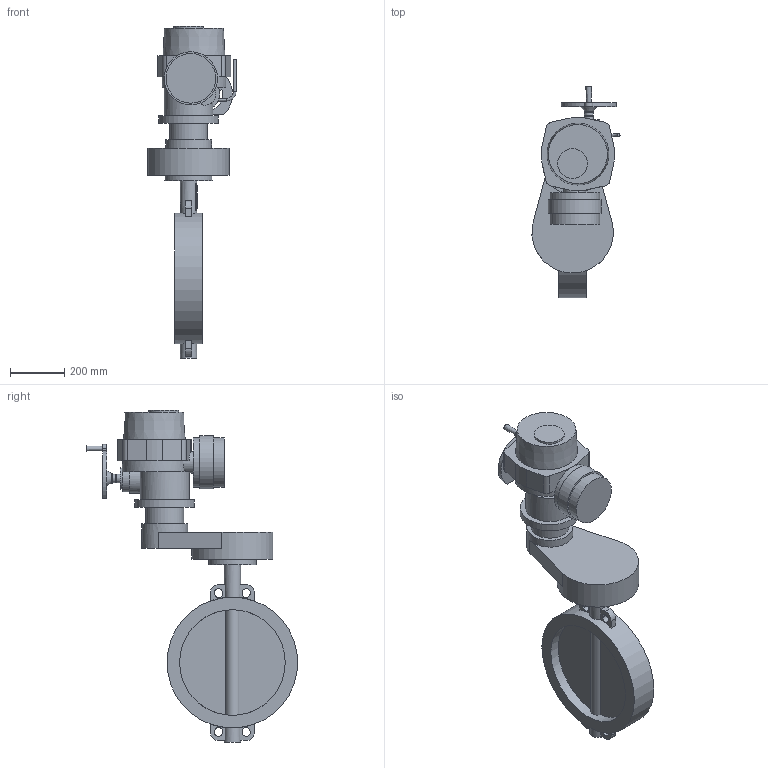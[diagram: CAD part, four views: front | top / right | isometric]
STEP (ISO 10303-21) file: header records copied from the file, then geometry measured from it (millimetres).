
FILE_DESCRIPTION(('STEP AP203'), '1');
FILE_NAME('青蜮铕 017W.ZS DN400+菹 QT.A200', '', ('UNSPECIFIED'), ('UNSPECIFIED'), 'ASCON STEP Converter 1.6', 'ASCON Math Kernel', '');
FILE_SCHEMA(('CONFIG_CONTROL_DESIGN'));
Length unit declared in the file: millimetre
Bounding box: 324.45 x 780 x 1224 mm (x, y, z)
Volume: 40645702.7 mm3; surface area: 1681704.3 mm2
Topology: 1 solids, 1 shells, 888 faces, 2471 edges, 1642 vertices
Faces by surface type: cylinder 634, plane 250, cone 3, torus 1
Full cylindrical faces by diameter (mm): 10 x2, 14 x12, 16 x1, 17.5 x4, 18 x4, 32 x2, 35 x1, 60 x2, 80 x2, 100 x1, 110 x1, 140 x1, 170 x1, 175 x1, 180 x1, 183 x2, 196 x1, 220 x1, 300 x1, 389.6 x2, 482 x1
Entity records: 37160 total; most frequent: CARTESIAN_POINT 6106, DIRECTION 5496, ORIENTED_EDGE 4846, EDGE_CURVE 2423, AXIS2_PLACEMENT_3D 2204, VERTEX_POINT 1642, CIRCLE 1315, LINE 1088
